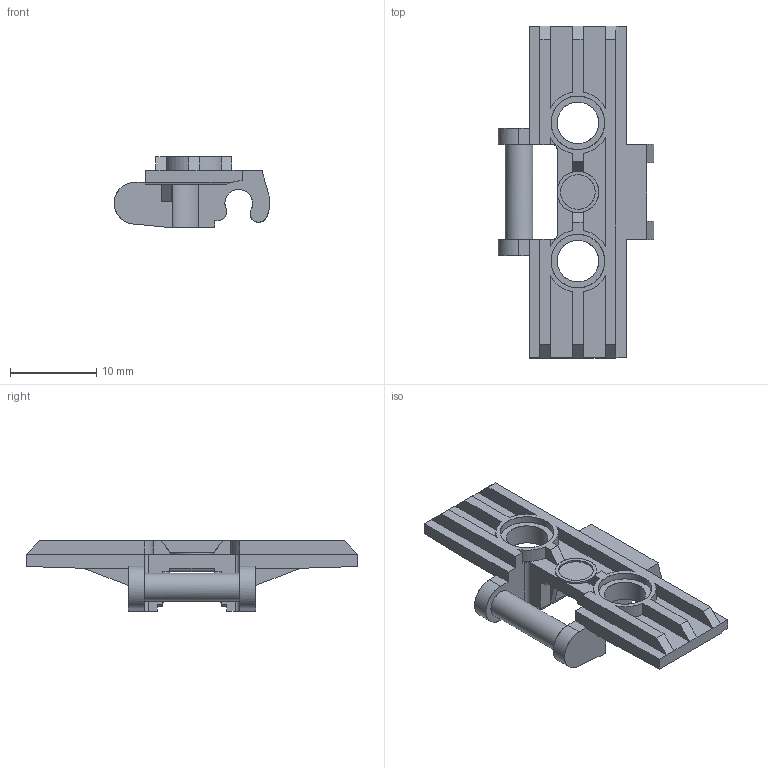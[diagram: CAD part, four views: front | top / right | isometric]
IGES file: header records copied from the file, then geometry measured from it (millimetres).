
Start section: C
Global section: file name: Gray_4566742_AVV.iges; native system: By Siemens PLM Incorporated; preprocessor: XPlus GENERIC/IGES 26.1.183; author: Author; organization: Title; date: 20250722.000013; units: millimetre
Bounding box: 18.02 x 38.4 x 8.2 mm (x, y, z)
Surface area: 1842.6 mm2 (no closed solid volume)
Topology: 0 solids, 0 shells, 138 faces, 776 edges, 776 vertices
Faces by surface type: bspline 138
